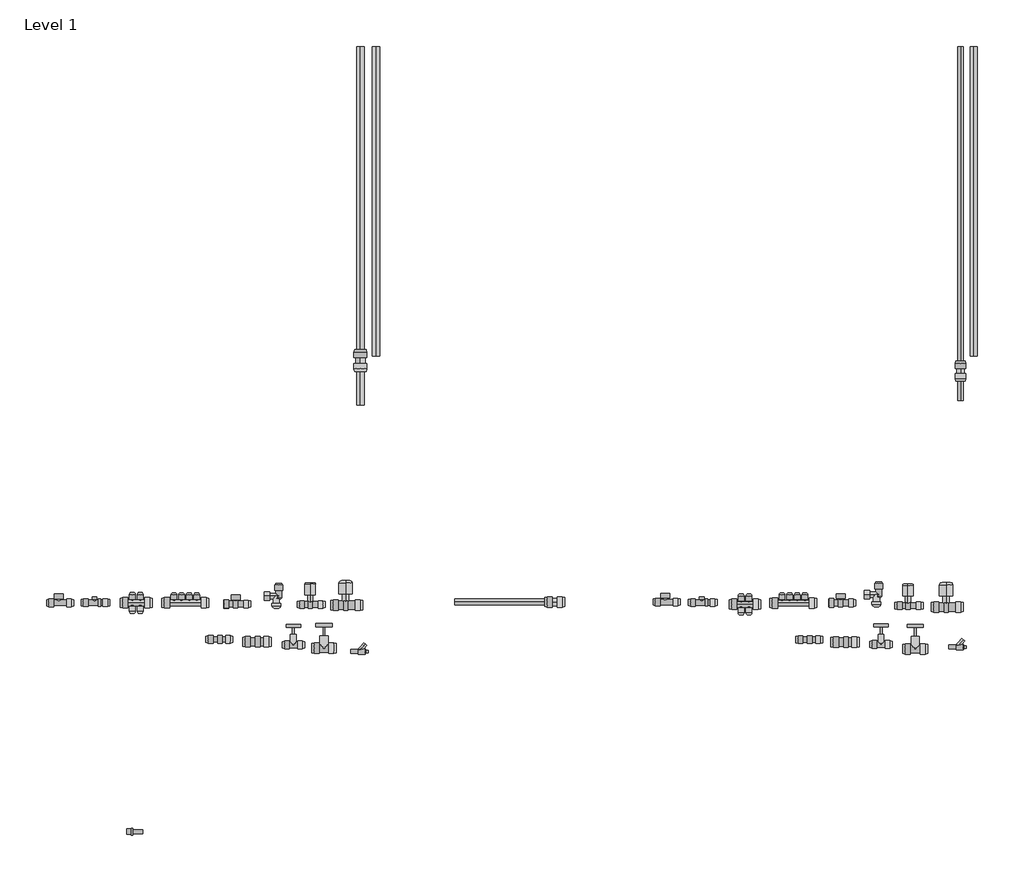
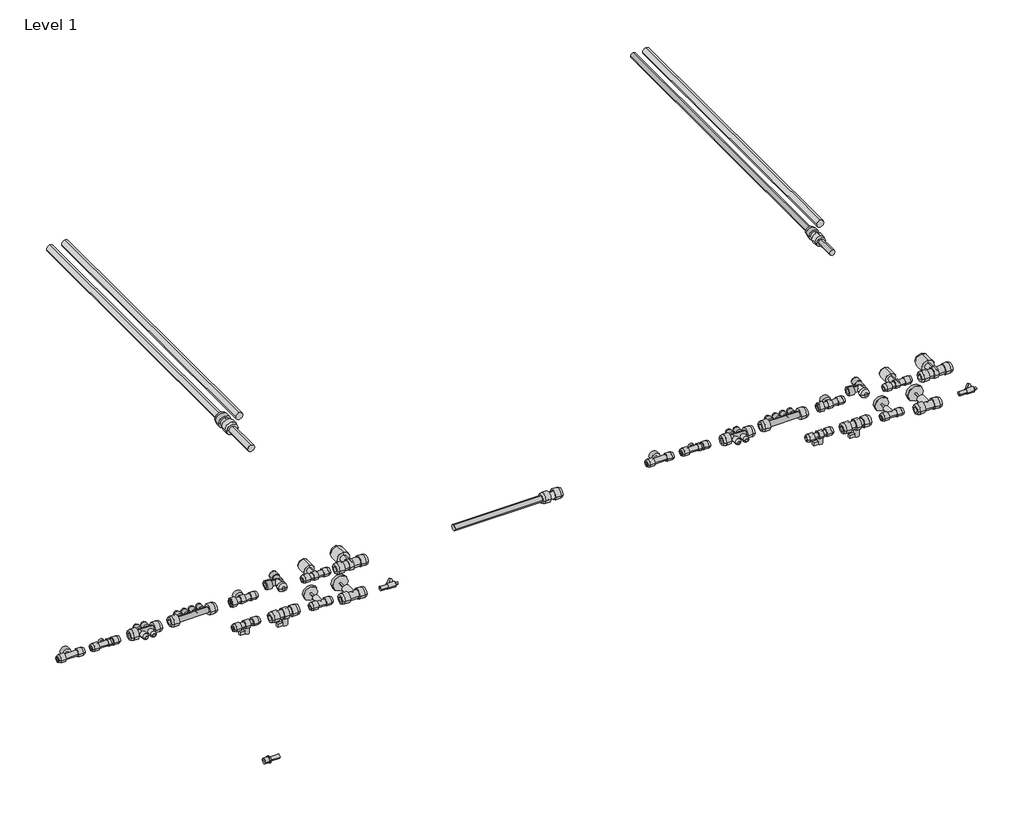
# One storey, incomplete: 22 valves, 8 pipe fittings, 7 pipe segments.
"""IFC4 building model written with IfcOpenShell, lengths in millimetres."""

from ifc_helpers import new_model, si_unit, point, frame, frame_2d, origin, place, context, project, spatial, circle_curve, trimmed, segment, composite_curve, outline, extrude, transform, mapped, element, save
from components import dn_f05efcd2, dn_58c94de0, dn_f2cf063a, od_12591e28, od_6c5656e1, dn10_7873d2fb, dn10_fe27804f, dn10_97a4a5d7, dn10_fc41e834, dn10_b137be33, dn10_6025dd98, dn10_14278ebe, dn10_693bce13, dn15_9c668e0e, dn15_df7de234, dn15_406b94d7

model = new_model("IFC4")

# Units and contexts
model_context = context("Model", 3, world=origin())
ifc_project = project(units=[si_unit("LENGTHUNIT", "METRE", prefix="MILLI")], contexts=[model_context])

# Site, building, storey
site = spatial("IfcSite", under=ifc_project)
building = spatial("IfcBuilding", under=site)
storey = spatial("IfcBuildingStorey", under=building, Name="Level 1", Elevation=0.0)

# Pipe fittings
placement = place(None, origin())
dn_shape = dn_f05efcd2(model_context)
element("IfcPipeFitting", 1, ObjectType="Wavin_PipeFitting_Hep2oCoupler : DN", at=placement, inside=storey, context=model_context, shape_type="MappedRepresentation", body=[
    mapped(dn_shape, transform((3098.076642, 2384.9853875, 0.0), x_axis=(0.0, 1.0, 0.0), y_axis=(-1.0, 0.0, 0.0), z_axis=(0.0, 0.0, 1.0))),
])
dn_2_shape = dn_58c94de0(model_context)
element("IfcPipeFitting", 2, ObjectType="Wavin_PipeFitting_Hep2oManifold : DN", at=placement, inside=storey, context=model_context, shape_type="MappedRepresentation", body=[
    mapped(dn_2_shape, transform((2485.4133115, 1463.364093, 0.0), x_axis=(1.0, 0.0, 0.0), y_axis=(0.0, 1.0, 0.0), z_axis=(0.0, 0.0, 1.0))),
])
dn_3_shape = dn_f2cf063a(model_context)
element("IfcPipeFitting", 3, ObjectType="Wavin_PipeFitting_Hep2oManifoldv2 : DN", at=placement, inside=storey, context=model_context, shape_type="MappedRepresentation", body=[
    mapped(dn_3_shape, transform((2267.7210038, 1463.364093, 0.0), x_axis=(1.0, 0.0, 0.0), y_axis=(0.0, 1.0, 0.0), z_axis=(0.0, 0.0, 1.0))),
])
element("IfcPipeFitting", 4, ObjectType="Wavin_PipeFitting_Hep2oManifold : OD", at=placement, inside=storey, context=model_context, shape_type="MappedRepresentation", body=[
    mapped(dn_2_shape, transform((4824.8211374, 1462.5358041, 0.0), x_axis=(1.0, 0.0, 0.0), y_axis=(0.0, 1.0, 0.0), z_axis=(0.0, 0.0, 1.0))),
])
od_shape = od_12591e28(model_context)
element("IfcPipeFitting", 5, ObjectType="Wavin_PipeFitting_Hep2oTransition : OD", at=placement, inside=storey, context=model_context, shape_type="MappedRepresentation", body=[
    mapped(od_shape, transform((2199.5640486, 582.424562, 0.0), x_axis=(1.0, 0.0, 0.0), y_axis=(0.0, 1.0, 0.0), z_axis=(0.0, 0.0, 1.0))),
])
od_2_shape = od_6c5656e1(model_context)
element("IfcPipeFitting", 6, ObjectType="Wavin_PipeFitting_Hep2oCoupler : OD", at=placement, inside=storey, context=model_context, shape_type="MappedRepresentation", body=[
    mapped(od_2_shape, transform((5406.8805766, 2365.4712028, 0.0), x_axis=(0.0, -1.0, 0.0), y_axis=(1.0, 0.0, 0.0), z_axis=(0.0, 0.0, 1.0))),
])
element("IfcPipeFitting", 7, ObjectType="Wavin_PipeFitting_Hep2oCoupler : OD", at=placement, inside=storey, context=model_context, shape_type="MappedRepresentation", body=[
    mapped(od_2_shape, transform((3835.8670301, 1466.5004515, 0.0), x_axis=(1.0, 0.0, 0.0), y_axis=(0.0, 1.0, 0.0), z_axis=(0.0, 0.0, 1.0))),
])
element("IfcPipeFitting", 8, ObjectType="Wavin_PipeFitting_Hep2oManifoldv2 : OD", at=placement, inside=storey, context=model_context, shape_type="MappedRepresentation", body=[
    mapped(dn_3_shape, transform((4609.8825437, 1457.2787431, 0.0), x_axis=(1.0, 0.0, 0.0), y_axis=(0.0, 1.0, 0.0), z_axis=(0.0, 0.0, 1.0))),
])

# Pipe segments
element("IfcPipeSegment", 9, ObjectType="Wavin_Pipe_Hep2oBarrierPipeInCoilDn", at=placement, inside=storey, context=model_context, shape_type="SweptSolid", body=[
    extrude(outline(composite_curve([segment(trimmed(circle_curve(frame_2d((0.0, 3098.076642)), 14.0), [point((0.0, 3112.076642))], [point((14.0, 3098.076642))], False, "CARTESIAN"), True, "CONTINUOUS"), segment(trimmed(circle_curve(frame_2d((0.0, 3098.076642)), 14.0), [point((14.0, 3098.076642))], [point((0.0, 3084.076642))], False, "CARTESIAN"), True, "CONTINUOUS"), segment(trimmed(circle_curve(frame_2d((0.0, 3098.076642)), 14.0), [point((0.0, 3084.076642))], [point((-14.0, 3098.076642))], False, "CARTESIAN"), True, "CONTINUOUS"), segment(trimmed(circle_curve(frame_2d((0.0, 3098.076642)), 14.0), [point((-14.0, 3098.076642))], [point((0.0, 3112.076642))], False, "CARTESIAN"), True, "CONTINUOUS")], self_intersect=False)), frame((0.0, 2406.9853875, 0.0), z_axis=(0.0, 1.0, 0.0), x_axis=(0.0, 0.0, 1.0)), (0.0, 0.0, 1.0), 1198.0),
])
element("IfcPipeSegment", 10, ObjectType="Wavin_Pipe_Hep2oBarrierPipeInCoilOd", at=placement, inside=storey, context=model_context, shape_type="SweptSolid", body=[
    extrude(outline(composite_curve([segment(trimmed(circle_curve(frame_2d((0.0, 5406.8805766)), 11.0), [point((0.0, 5395.8805766))], [point((-11.0, 5406.8805766))], False, "CARTESIAN"), True, "CONTINUOUS"), segment(trimmed(circle_curve(frame_2d((0.0, 5406.8805766)), 11.0), [point((-11.0, 5406.8805766))], [point((0.0, 5417.8805766))], False, "CARTESIAN"), True, "CONTINUOUS"), segment(trimmed(circle_curve(frame_2d((0.0, 5406.8805766)), 11.0), [point((0.0, 5417.8805766))], [point((11.0, 5406.8805766))], False, "CARTESIAN"), True, "CONTINUOUS"), segment(trimmed(circle_curve(frame_2d((0.0, 5406.8805766)), 11.0), [point((11.0, 5406.8805766))], [point((0.0, 5395.8805766))], False, "CARTESIAN"), True, "CONTINUOUS")], self_intersect=False)), frame((0.0, 2241.4712028, 0.0), z_axis=(0.0, 1.0, 0.0), x_axis=(0.0, 0.0, 1.0)), (0.0, 0.0, 1.0), 104.0),
])
element("IfcPipeSegment", 11, ObjectType="Wavin_Pipe_Hep2oBarrierPipeInCoilOd", at=placement, inside=storey, context=model_context, shape_type="SweptSolid", body=[
    extrude(outline(composite_curve([segment(trimmed(circle_curve(frame_2d((0.0, 5406.8805766)), 11.0), [point((0.0, 5395.8805766))], [point((-11.0, 5406.8805766))], False, "CARTESIAN"), True, "CONTINUOUS"), segment(trimmed(circle_curve(frame_2d((0.0, 5406.8805766)), 11.0), [point((-11.0, 5406.8805766))], [point((0.0, 5417.8805766))], False, "CARTESIAN"), True, "CONTINUOUS"), segment(trimmed(circle_curve(frame_2d((0.0, 5406.8805766)), 11.0), [point((0.0, 5417.8805766))], [point((11.0, 5406.8805766))], False, "CARTESIAN"), True, "CONTINUOUS"), segment(trimmed(circle_curve(frame_2d((0.0, 5406.8805766)), 11.0), [point((11.0, 5406.8805766))], [point((0.0, 5395.8805766))], False, "CARTESIAN"), True, "CONTINUOUS")], self_intersect=False)), frame((0.0, 2365.4712028, 0.0), z_axis=(0.0, 1.0, 0.0), x_axis=(0.0, 0.0, 1.0)), (0.0, 0.0, 1.0), 1239.0597333),
])
element("IfcPipeSegment", 12, ObjectType="Wavin_Pipe_Hep2oBarrierPipeSingleDn", at=placement, inside=storey, context=model_context, shape_type="SweptSolid", body=[
    extrude(outline(composite_curve([segment(trimmed(circle_curve(frame_2d((0.0, 3158.076642)), 14.0), [point((0.0, 3172.076642))], [point((14.0, 3158.076642))], False, "CARTESIAN"), True, "CONTINUOUS"), segment(trimmed(circle_curve(frame_2d((0.0, 3158.076642)), 14.0), [point((14.0, 3158.076642))], [point((0.0, 3144.076642))], False, "CARTESIAN"), True, "CONTINUOUS"), segment(trimmed(circle_curve(frame_2d((0.0, 3158.076642)), 14.0), [point((0.0, 3144.076642))], [point((-14.0, 3158.076642))], False, "CARTESIAN"), True, "CONTINUOUS"), segment(trimmed(circle_curve(frame_2d((0.0, 3158.076642)), 14.0), [point((-14.0, 3158.076642))], [point((0.0, 3172.076642))], False, "CARTESIAN"), True, "CONTINUOUS")], self_intersect=False)), frame((0.0, 2412.4712028, 0.0), z_axis=(0.0, 1.0, 0.0), x_axis=(0.0, 0.0, 1.0)), (0.0, 0.0, 1.0), 1192.5141847),
])
element("IfcPipeSegment", 13, ObjectType="Wavin_Pipe_Hep2oBarrierPipeSingleOd", at=placement, inside=storey, context=model_context, shape_type="SweptSolid", body=[
    extrude(outline(composite_curve([segment(trimmed(circle_curve(frame_2d((0.0, 5458.076642)), 14.0), [point((0.0, 5472.076642))], [point((14.0, 5458.076642))], False, "CARTESIAN"), True, "CONTINUOUS"), segment(trimmed(circle_curve(frame_2d((0.0, 5458.076642)), 14.0), [point((14.0, 5458.076642))], [point((0.0, 5444.076642))], False, "CARTESIAN"), True, "CONTINUOUS"), segment(trimmed(circle_curve(frame_2d((0.0, 5458.076642)), 14.0), [point((0.0, 5444.076642))], [point((-14.0, 5458.076642))], False, "CARTESIAN"), True, "CONTINUOUS"), segment(trimmed(circle_curve(frame_2d((0.0, 5458.076642)), 14.0), [point((-14.0, 5458.076642))], [point((0.0, 5472.076642))], False, "CARTESIAN"), True, "CONTINUOUS")], self_intersect=False)), frame((0.0, 2412.4712028, 0.0), z_axis=(0.0, 1.0, 0.0), x_axis=(0.0, 0.0, 1.0)), (0.0, 0.0, 1.0), 1192.5141847),
])
element("IfcPipeSegment", 14, ObjectType="Wavin_Pipe_Hep2oBarrierPipeInCoilDn", at=placement, inside=storey, context=model_context, shape_type="SweptSolid", body=[
    extrude(outline(composite_curve([segment(trimmed(circle_curve(frame_2d((0.0, 3098.076642)), 14.0), [point((0.0, 3112.076642))], [point((14.0, 3098.076642))], False, "CARTESIAN"), True, "CONTINUOUS"), segment(trimmed(circle_curve(frame_2d((0.0, 3098.076642)), 14.0), [point((14.0, 3098.076642))], [point((0.0, 3084.076642))], False, "CARTESIAN"), True, "CONTINUOUS"), segment(trimmed(circle_curve(frame_2d((0.0, 3098.076642)), 14.0), [point((0.0, 3084.076642))], [point((-14.0, 3098.076642))], False, "CARTESIAN"), True, "CONTINUOUS"), segment(trimmed(circle_curve(frame_2d((0.0, 3098.076642)), 14.0), [point((-14.0, 3098.076642))], [point((0.0, 3112.076642))], False, "CARTESIAN"), True, "CONTINUOUS")], self_intersect=False)), frame((0.0, 2224.9853875, 0.0), z_axis=(0.0, 1.0, 0.0), x_axis=(0.0, 0.0, 1.0)), (0.0, 0.0, 1.0), 160.0),
])
element("IfcPipeSegment", 15, ObjectType="Wavin_Pipe_Hep2oBarrierPipeInCoilOd", at=placement, inside=storey, context=model_context, shape_type="SweptSolid", body=[
    extrude(outline(composite_curve([segment(trimmed(circle_curve(frame_2d((1466.5004515, 0.0)), 11.0), [point((1455.5004515, 0.0))], [point((1466.5004515, 11.0))], False, "CARTESIAN"), True, "CONTINUOUS"), segment(trimmed(circle_curve(frame_2d((1466.5004515, 0.0)), 11.0), [point((1466.5004515, 11.0))], [point((1477.5004515, 0.0))], False, "CARTESIAN"), True, "CONTINUOUS"), segment(trimmed(circle_curve(frame_2d((1466.5004515, 0.0)), 11.0), [point((1477.5004515, 0.0))], [point((1466.5004515, -11.0))], False, "CARTESIAN"), True, "CONTINUOUS"), segment(trimmed(circle_curve(frame_2d((1466.5004515, 0.0)), 11.0), [point((1466.5004515, -11.0))], [point((1455.5004515, 0.0))], False, "CARTESIAN"), True, "CONTINUOUS")], self_intersect=False)), frame((3460.8670301, 0.0, 0.0), z_axis=(1.0, 0.0, 0.0), x_axis=(0.0, 1.0, 0.0)), (0.0, 0.0, 1.0), 375.0),
])

# Valves
dn10_shape = dn10_7873d2fb(model_context)
element("IfcValve", 16, ObjectType="Wavin_PipeAccessory_Hep2oStraightServiceValve : DN10", at=placement, inside=storey, context=model_context, shape_type="MappedRepresentation", body=[
    mapped(dn10_shape, transform((2617.6789365, 1458.5083237, -7e-07), x_axis=(1.0, 0.0, 0.0), y_axis=(0.0, 1.0, 0.0), z_axis=(0.0, 0.0, 1.0))),
])
dn10_2_shape = dn10_fe27804f(model_context)
element("IfcValve", 17, ObjectType="Wavin_PipeAccessory_Hep2oBallValveBrass : DN10", at=placement, inside=storey, context=model_context, shape_type="MappedRepresentation", body=[
    mapped(dn10_2_shape, transform((2557.8365777, 1322.8008143, -7e-07), x_axis=(1.0, 0.0, 0.0), y_axis=(0.0, 1.0, 0.0), z_axis=(0.0, 0.0, 1.0))),
])
dn10_3_shape = dn10_97a4a5d7(model_context)
element("IfcValve", 18, ObjectType="Wavin_PipeAccessory_Hep2oBrassDraincock : DN10", at=placement, inside=storey, context=model_context, shape_type="MappedRepresentation", body=[
    mapped(dn10_3_shape, transform((3092.076642, 1275.974203, 0.0), x_axis=(1.0, 0.0, 0.0), y_axis=(0.0, 1.0, 0.0), z_axis=(0.0, 0.0, 1.0))),
])
dn10_4_shape = dn10_fc41e834(model_context)
element("IfcValve", 19, ObjectType="Wavin_PipeAccessory_Hep2oDoubleCheckValve : DN10", at=placement, inside=storey, context=model_context, shape_type="MappedRepresentation", body=[
    mapped(dn10_4_shape, transform((2075.0587441, 1463.8208237, -7e-07), x_axis=(1.0, 0.0, 0.0), y_axis=(0.0, 1.0, 0.0), z_axis=(0.0, 0.0, 1.0))),
])
dn10_5_shape = dn10_b137be33(model_context)
element("IfcValve", 20, ObjectType="Wavin_PipeAccessory_Hep2oGateValve : DN10", at=placement, inside=storey, context=model_context, shape_type="MappedRepresentation", body=[
    mapped(dn10_5_shape, transform((2840.0174145, 1301.5480511, -7e-07), x_axis=(1.0, 0.0, 0.0), y_axis=(0.0, 1.0, 0.0), z_axis=(0.0, 0.0, 1.0))),
])
dn10_6_shape = dn10_6025dd98(model_context)
element("IfcValve", 21, ObjectType="Wavin_PipeAccessory_Hep2oShutOffValve : DN10", at=placement, inside=storey, context=model_context, shape_type="MappedRepresentation", body=[
    mapped(dn10_6_shape, transform((1937.3363884, 1463.364093, -7e-07), x_axis=(1.0, 0.0, 0.0), y_axis=(0.0, 1.0, 0.0), z_axis=(0.0, 0.0, 1.0))),
])
dn10_7_shape = dn10_14278ebe(model_context)
element("IfcValve", 22, ObjectType="Wavin_PipeAccessory_Hep2oStopcock : DN10", at=placement, inside=storey, context=model_context, shape_type="MappedRepresentation", body=[
    mapped(dn10_7_shape, transform((2904.9359938, 1456.715893, -7e-07), x_axis=(1.0, 0.0, 0.0), y_axis=(0.0, 1.0, 0.0), z_axis=(0.0, 0.0, 1.0))),
])
dn10_8_shape = dn10_693bce13(model_context)
element("IfcValve", 23, ObjectType="Wavin_PipeAccessory_Hep2oAngledServiceValve : DN10", at=placement, inside=storey, context=model_context, shape_type="MappedRepresentation", body=[
    mapped(dn10_8_shape, transform((2783.6404749, 1489.2775545, 0.0), x_axis=(1.0, 0.0, 0.0), y_axis=(0.0, 1.0, 0.0), z_axis=(0.0, 0.0, 1.0))),
])
dn15_shape = dn15_9c668e0e(model_context)
element("IfcValve", 24, ObjectType="Wavin_PipeAccessory_Hep2oBallValveBrass : DN15", at=placement, inside=storey, context=model_context, shape_type="MappedRepresentation", body=[
    mapped(dn15_shape, transform((2703.6191218, 1313.3224044, 0.0), x_axis=(1.0, 0.0, 0.0), y_axis=(0.0, 1.0, 0.0), z_axis=(0.0, 0.0, 1.0))),
])
dn15_2_shape = dn15_df7de234(model_context)
element("IfcValve", 25, ObjectType="Wavin_PipeAccessory_Hep2oGateValve : DN15", at=placement, inside=storey, context=model_context, shape_type="MappedRepresentation", body=[
    mapped(dn15_2_shape, transform((2957.9380876, 1288.5913203, 0.0), x_axis=(1.0, 0.0, 0.0), y_axis=(0.0, 1.0, 0.0), z_axis=(0.0, 0.0, 1.0))),
])
dn15_3_shape = dn15_406b94d7(model_context)
element("IfcValve", 26, ObjectType="Wavin_PipeAccessory_Hep2oStopcock : DN15", at=placement, inside=storey, context=model_context, shape_type="MappedRepresentation", body=[
    mapped(dn15_3_shape, transform((3041.430635, 1454.5749003, 0.0), x_axis=(1.0, 0.0, 0.0), y_axis=(0.0, 1.0, 0.0), z_axis=(0.0, 0.0, 1.0))),
])
element("IfcValve", 27, ObjectType="Wavin_PipeAccessory_Hep2oStraightServiceValve : OD15", at=placement, inside=storey, context=model_context, shape_type="MappedRepresentation", body=[
    mapped(dn10_shape, transform((4945.3409266, 1463.0219229, 0.0), x_axis=(1.0, 0.0, 0.0), y_axis=(0.0, 1.0, 0.0), z_axis=(0.0, 0.0, 1.0))),
])
element("IfcValve", 28, ObjectType="Wavin_PipeAccessory_Hep2oBallValveBrass : OD15", at=placement, inside=storey, context=model_context, shape_type="MappedRepresentation", body=[
    mapped(dn10_2_shape, transform((4827.3208341, 1321.4607862, 0.0), x_axis=(1.0, 0.0, 0.0), y_axis=(0.0, 1.0, 0.0), z_axis=(0.0, 0.0, 1.0))),
])
element("IfcValve", 29, ObjectType="Wavin_PipeAccessory_Hep2oBrassDraincock : OD15", at=placement, inside=storey, context=model_context, shape_type="MappedRepresentation", body=[
    mapped(dn10_3_shape, transform((5392.8952628, 1293.0014398, 0.0), x_axis=(1.0, 0.0, 0.0), y_axis=(0.0, 1.0, 0.0), z_axis=(0.0, 0.0, 1.0))),
])
element("IfcValve", 30, ObjectType="Wavin_PipeAccessory_Hep2oDoubleCheckValve : OD15", at=placement, inside=storey, context=model_context, shape_type="MappedRepresentation", body=[
    mapped(dn10_4_shape, transform((4411.3242914, 1464.2866196, 0.0), x_axis=(1.0, 0.0, 0.0), y_axis=(0.0, 1.0, 0.0), z_axis=(0.0, 0.0, 1.0))),
])
element("IfcValve", 31, ObjectType="Wavin_PipeAccessory_Hep2oGateValve : OD15", at=placement, inside=storey, context=model_context, shape_type="MappedRepresentation", body=[
    mapped(dn10_5_shape, transform((5101.0648313, 1303.0106987, 0.0), x_axis=(1.0, 0.0, 0.0), y_axis=(0.0, 1.0, 0.0), z_axis=(0.0, 0.0, 1.0))),
])
element("IfcValve", 32, ObjectType="Wavin_PipeAccessory_Hep2oShutOffValve : OD15", at=placement, inside=storey, context=model_context, shape_type="MappedRepresentation", body=[
    mapped(dn10_6_shape, transform((4271.1229442, 1466.5004515, 0.0), x_axis=(1.0, 0.0, 0.0), y_axis=(0.0, 1.0, 0.0), z_axis=(0.0, 0.0, 1.0))),
])
element("IfcValve", 33, ObjectType="Wavin_PipeAccessory_Hep2oStopcock : OD15", at=placement, inside=storey, context=model_context, shape_type="MappedRepresentation", body=[
    mapped(dn10_7_shape, transform((5204.7693837, 1452.28551, 0.0), x_axis=(1.0, 0.0, 0.0), y_axis=(0.0, 1.0, 0.0), z_axis=(0.0, 0.0, 1.0))),
])
element("IfcValve", 34, ObjectType="Wavin_PipeAccessory_Hep2oAngledServiceValve : OD15", at=placement, inside=storey, context=model_context, shape_type="MappedRepresentation", body=[
    mapped(dn10_8_shape, transform((5092.2120504, 1495.2705765, 0.0), x_axis=(1.0, 0.0, 0.0), y_axis=(0.0, 1.0, 0.0), z_axis=(0.0, 0.0, 1.0))),
])
element("IfcValve", 35, ObjectType="Wavin_PipeAccessory_Hep2oBallValveBrass : OD22", at=placement, inside=storey, context=model_context, shape_type="MappedRepresentation", body=[
    mapped(dn15_shape, transform((4966.5284485, 1311.897068, 0.0), x_axis=(1.0, 0.0, 0.0), y_axis=(0.0, 1.0, 0.0), z_axis=(0.0, 0.0, 1.0))),
])
element("IfcValve", 36, ObjectType="Wavin_PipeAccessory_Hep2oGateValve : OD22", at=placement, inside=storey, context=model_context, shape_type="MappedRepresentation", body=[
    mapped(dn15_2_shape, transform((5233.2753199, 1285.7420104, 0.0), x_axis=(1.0, 0.0, 0.0), y_axis=(0.0, 1.0, 0.0), z_axis=(0.0, 0.0, 1.0))),
])
element("IfcValve", 37, ObjectType="Wavin_PipeAccessory_Hep2oStopcock : OD22", at=placement, inside=storey, context=model_context, shape_type="MappedRepresentation", body=[
    mapped(dn15_3_shape, transform((5351.8239111, 1447.1020141, 0.0), x_axis=(1.0, 0.0, 0.0), y_axis=(0.0, 1.0, 0.0), z_axis=(0.0, 0.0, 1.0))),
])

save(model, "model.ifc")
